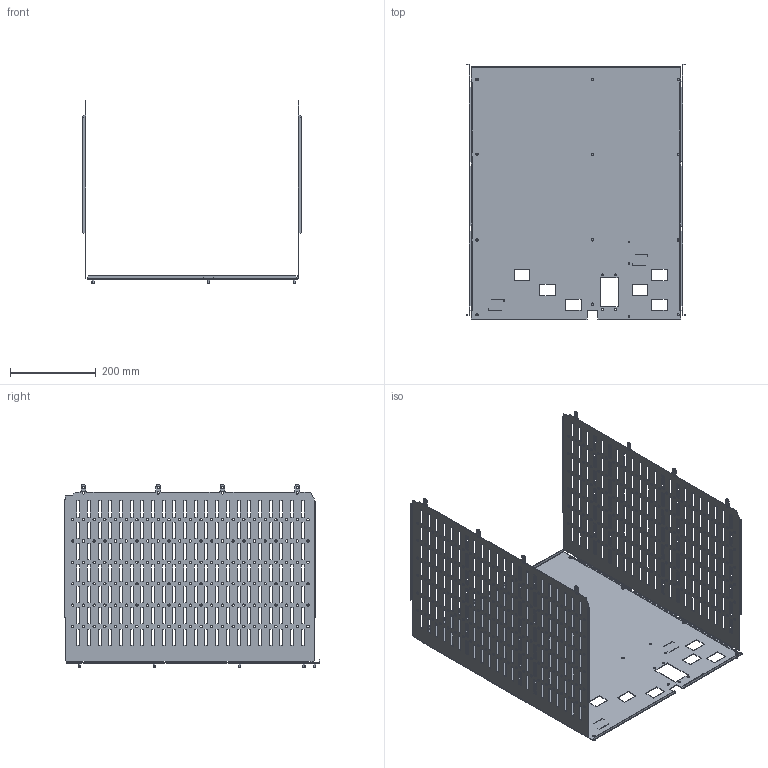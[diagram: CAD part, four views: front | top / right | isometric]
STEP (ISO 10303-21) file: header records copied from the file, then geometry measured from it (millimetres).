
FILE_DESCRIPTION(('CAx-IF Rec.Pracs.---Model Styling and Organization---1.2---2011-12-15','CAx-IF Rec.Pracs.---Geometric and Assembly Validation Properties---4.1---2014-06-16','CAx-IF Rec.Pracs.---PMI Polyline Presentation---2.0---2013-05-24'),'2;1');
FILE_NAME('R5M2W12M1A22.stp','2021-05-05T12:38:42+03:00',(''),(''),'STEP Interface 4.4 by CT CoreTechnologie','3D_Evolution4.4 by CT CoreTechnologie','');
FILE_SCHEMA(('AUTOMOTIVE_DESIGN { 1 0 10303 214 1 1 1 1 }'));
Length unit declared in the file: millimetre
Products named in the file (5): R5M2W12M1A22; RB.1257.00.00.0_-17; M5x8-DIN7500C_stright; RB.1285.00.00.0_-16; RB.1285.00.00.0_-17
Assembly tree (15 placements, depth 2):
  R5M2W12M1A22
    RB.1257.00.00.0_-17
    M5x8-DIN7500C_stright  x12
    RB.1285.00.00.0_-16
    RB.1285.00.00.0_-17
Bounding box: 510 x 597.5 x 428.6 mm (x, y, z)
Surface area: 1398750.9 mm2 (no closed solid volume)
Topology: 0 solids, 17 shells, 2200 faces, 6562 edges, 4380 vertices
Faces by surface type: plane 1480, cylinder 720
Entity records: 75764 total; most frequent: CARTESIAN_POINT 13004, ORIENTED_EDGE 12992, DIRECTION 12240, EDGE_CURVE 6496, VECTOR 5096, LINE 5096, VERTEX_POINT 4336, AXIS2_PLACEMENT_3D 3572
